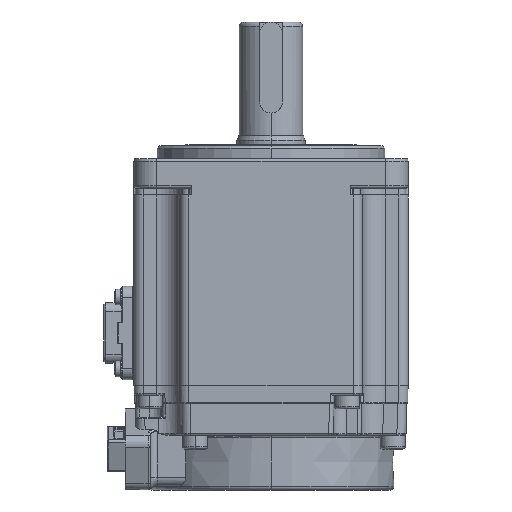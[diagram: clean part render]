
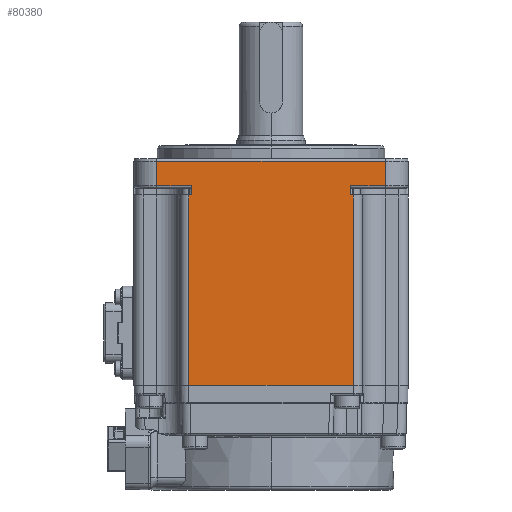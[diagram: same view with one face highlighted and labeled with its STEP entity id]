
A CAD part, left-side view. The second image highlights one B-rep face of the part: STEP entity #80380.
In plain terms, the highlighted planar face has unit normal (-1, 0, 0).
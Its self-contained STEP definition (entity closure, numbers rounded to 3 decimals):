
#378 = CARTESIAN_POINT ( 'NONE',  ( -30.584, -34.646, 78.7 ) ) ;
#789 = PLANE ( 'NONE',  #56479 ) ;
#2580 = EDGE_CURVE ( 'NONE', #37574, #38829, #68277, .T. ) ;
#2584 = VECTOR ( 'NONE', #64085, 1000. ) ;
#5036 = ORIENTED_EDGE ( 'NONE', *, *, #61376, .T. ) ;
#5557 = CARTESIAN_POINT ( 'NONE',  ( -30.584, -34.646, 85.1 ) ) ;
#6502 = EDGE_CURVE ( 'NONE', #24270, #26226, #6911, .T. ) ;
#6822 = CARTESIAN_POINT ( 'NONE',  ( -30.584, -39.646, 34.9 ) ) ;
#6911 = LINE ( 'NONE', #98754, #99119 ) ;
#7812 = ORIENTED_EDGE ( 'NONE', *, *, #11112, .T. ) ;
#11112 = EDGE_CURVE ( 'NONE', #11917, #20353, #57977, .T. ) ;
#11518 = VECTOR ( 'NONE', #33505, 1000. ) ;
#11917 = VERTEX_POINT ( 'NONE', #70736 ) ;
#13301 = ORIENTED_EDGE ( 'NONE', *, *, #69402, .T. ) ;
#16123 = ORIENTED_EDGE ( 'NONE', *, *, #56805, .T. ) ;
#16776 = FACE_OUTER_BOUND ( 'NONE', #71758, .T. ) ;
#18781 = DIRECTION ( 'NONE',  ( 0., 1., 0. ) ) ;
#20353 = VERTEX_POINT ( 'NONE', #55248 ) ;
#21641 = ORIENTED_EDGE ( 'NONE', *, *, #52876, .T. ) ;
#22654 = VERTEX_POINT ( 'NONE', #54990 ) ;
#22865 = CARTESIAN_POINT ( 'NONE',  ( -30.584, -27.646, 85.1 ) ) ;
#24270 = VERTEX_POINT ( 'NONE', #67415 ) ;
#24494 = ORIENTED_EDGE ( 'NONE', *, *, #2580, .T. ) ;
#26226 = VERTEX_POINT ( 'NONE', #378 ) ;
#26402 = LINE ( 'NONE', #54401, #2584 ) ;
#27436 = LINE ( 'NONE', #83009, #72165 ) ;
#27649 = CARTESIAN_POINT ( 'NONE',  ( -30.584, 15.554, 78.7 ) ) ;
#28009 = VERTEX_POINT ( 'NONE', #27649 ) ;
#28146 = EDGE_CURVE ( 'NONE', #34985, #37574, #27436, .T. ) ;
#29120 = VECTOR ( 'NONE', #42430, 1000. ) ;
#30177 = DIRECTION ( 'NONE',  ( 0., 0., -1. ) ) ;
#31479 = DIRECTION ( 'NONE',  ( 0., 0., 1. ) ) ;
#33141 = CARTESIAN_POINT ( 'NONE',  ( -30.584, 7.954, 78.7 ) ) ;
#33505 = DIRECTION ( 'NONE',  ( 0., 1., 0. ) ) ;
#34985 = VERTEX_POINT ( 'NONE', #104303 ) ;
#37574 = VERTEX_POINT ( 'NONE', #83117 ) ;
#38793 = EDGE_CURVE ( 'NONE', #26226, #78892, #110789, .T. ) ;
#38829 = VERTEX_POINT ( 'NONE', #95366 ) ;
#39744 = CARTESIAN_POINT ( 'NONE',  ( -30.584, -39.646, 84.1 ) ) ;
#42180 = DIRECTION ( 'NONE',  ( 0., -1., 0. ) ) ;
#42430 = DIRECTION ( 'NONE',  ( 0., 1., 0. ) ) ;
#42557 = VECTOR ( 'NONE', #85648, 1000. ) ;
#42758 = EDGE_CURVE ( 'NONE', #11917, #84573, #59196, .T. ) ;
#42845 = ORIENTED_EDGE ( 'NONE', *, *, #38793, .T. ) ;
#44548 = VECTOR ( 'NONE', #94902, 1000. ) ;
#49846 = ORIENTED_EDGE ( 'NONE', *, *, #99858, .T. ) ;
#51394 = ORIENTED_EDGE ( 'NONE', *, *, #42758, .F. ) ;
#52876 = EDGE_CURVE ( 'NONE', #38829, #84573, #26402, .T. ) ;
#54401 = CARTESIAN_POINT ( 'NONE',  ( -30.584, 8.554, 85.1 ) ) ;
#54990 = CARTESIAN_POINT ( 'NONE',  ( -30.584, -27.046, 76.7 ) ) ;
#55248 = CARTESIAN_POINT ( 'NONE',  ( -30.584, -27.646, 76.7 ) ) ;
#56479 = AXIS2_PLACEMENT_3D ( 'NONE', #63396, #72349, #18781 ) ;
#56805 = EDGE_CURVE ( 'NONE', #78892, #89842, #107530, .T. ) ;
#57977 = LINE ( 'NONE', #22865, #102486 ) ;
#59196 = LINE ( 'NONE', #6822, #11518 ) ;
#59493 = LINE ( 'NONE', #92586, #104011 ) ;
#59986 = CARTESIAN_POINT ( 'NONE',  ( -30.584, -39.646, 76.7 ) ) ;
#61376 = EDGE_CURVE ( 'NONE', #20353, #22654, #100260, .T. ) ;
#62991 = VECTOR ( 'NONE', #75250, 1000. ) ;
#63396 = CARTESIAN_POINT ( 'NONE',  ( -30.584, -39.646, 85.1 ) ) ;
#64085 = DIRECTION ( 'NONE',  ( 0., 0., -1. ) ) ;
#67415 = CARTESIAN_POINT ( 'NONE',  ( -30.584, -27.046, 78.7 ) ) ;
#67972 = CARTESIAN_POINT ( 'NONE',  ( -30.584, 8.554, 34.9 ) ) ;
#68277 = LINE ( 'NONE', #86580, #44548 ) ;
#69402 = EDGE_CURVE ( 'NONE', #89842, #28009, #59493, .T. ) ;
#70736 = CARTESIAN_POINT ( 'NONE',  ( -30.584, -27.646, 34.9 ) ) ;
#71758 = EDGE_LOOP ( 'NONE', ( #51394, #7812, #5036, #83235, #80467, #42845, #16123, #13301, #49846, #115213, #24494, #21641 ) ) ;
#72165 = VECTOR ( 'NONE', #91964, 1000. ) ;
#72349 = DIRECTION ( 'NONE',  ( 1., 0., 0. ) ) ;
#74812 = CARTESIAN_POINT ( 'NONE',  ( -30.584, 15.554, 84.1 ) ) ;
#75250 = DIRECTION ( 'NONE',  ( 0., 1., 0. ) ) ;
#78892 = VERTEX_POINT ( 'NONE', #88416 ) ;
#80380 = ADVANCED_FACE ( 'NONE', ( #16776 ), #789, .F. ) ;
#80467 = ORIENTED_EDGE ( 'NONE', *, *, #6502, .T. ) ;
#82437 = LINE ( 'NONE', #33141, #103344 ) ;
#83009 = CARTESIAN_POINT ( 'NONE',  ( -30.584, 7.954, 85.1 ) ) ;
#83117 = CARTESIAN_POINT ( 'NONE',  ( -30.584, 7.954, 76.7 ) ) ;
#83235 = ORIENTED_EDGE ( 'NONE', *, *, #91850, .T. ) ;
#84573 = VERTEX_POINT ( 'NONE', #67972 ) ;
#85648 = DIRECTION ( 'NONE',  ( 0., 0., 1. ) ) ;
#86580 = CARTESIAN_POINT ( 'NONE',  ( -30.584, -39.646, 76.7 ) ) ;
#88416 = CARTESIAN_POINT ( 'NONE',  ( -30.584, -34.646, 84.1 ) ) ;
#89842 = VERTEX_POINT ( 'NONE', #74812 ) ;
#91850 = EDGE_CURVE ( 'NONE', #22654, #24270, #99140, .T. ) ;
#91964 = DIRECTION ( 'NONE',  ( 0., 0., -1. ) ) ;
#92586 = CARTESIAN_POINT ( 'NONE',  ( -30.584, 15.554, 85.1 ) ) ;
#94902 = DIRECTION ( 'NONE',  ( 0., 1., 0. ) ) ;
#95366 = CARTESIAN_POINT ( 'NONE',  ( -30.584, 8.554, 76.7 ) ) ;
#95649 = CARTESIAN_POINT ( 'NONE',  ( -30.584, -27.046, 85.1 ) ) ;
#96386 = VECTOR ( 'NONE', #104569, 1000. ) ;
#98754 = CARTESIAN_POINT ( 'NONE',  ( -30.584, -34.646, 78.7 ) ) ;
#98842 = DIRECTION ( 'NONE',  ( 0., -1., 0. ) ) ;
#99119 = VECTOR ( 'NONE', #98842, 1000. ) ;
#99140 = LINE ( 'NONE', #95649, #96386 ) ;
#99858 = EDGE_CURVE ( 'NONE', #28009, #34985, #82437, .T. ) ;
#100260 = LINE ( 'NONE', #59986, #29120 ) ;
#102486 = VECTOR ( 'NONE', #31479, 1000. ) ;
#103344 = VECTOR ( 'NONE', #42180, 1000. ) ;
#104011 = VECTOR ( 'NONE', #30177, 1000. ) ;
#104303 = CARTESIAN_POINT ( 'NONE',  ( -30.584, 7.954, 78.7 ) ) ;
#104569 = DIRECTION ( 'NONE',  ( 0., 0., 1. ) ) ;
#107530 = LINE ( 'NONE', #39744, #62991 ) ;
#110789 = LINE ( 'NONE', #5557, #42557 ) ;
#115213 = ORIENTED_EDGE ( 'NONE', *, *, #28146, .T. ) ;
